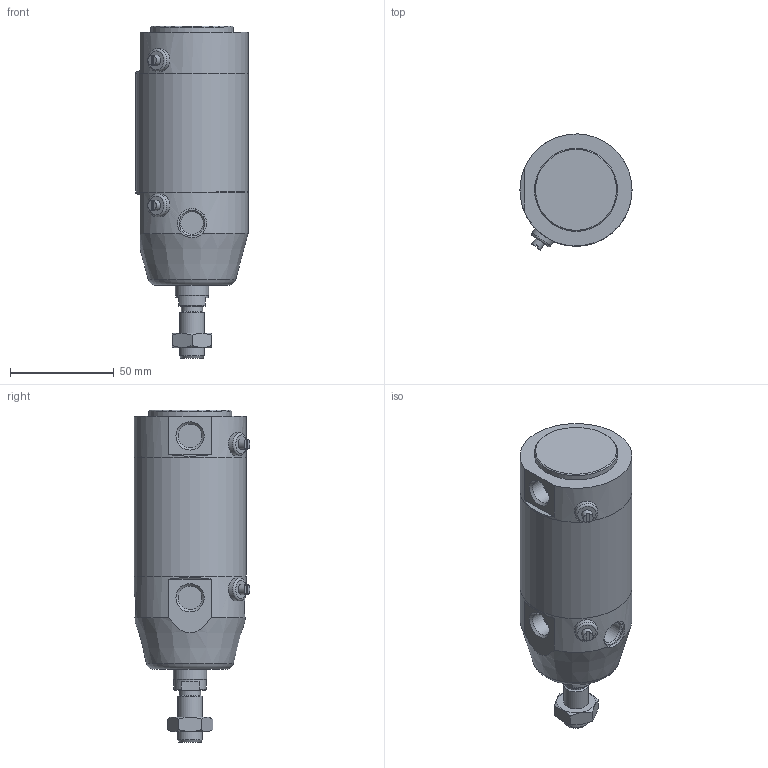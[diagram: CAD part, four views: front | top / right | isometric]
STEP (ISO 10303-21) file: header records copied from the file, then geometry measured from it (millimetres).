
FILE_DESCRIPTION(/* description */ (''),/* implementation_level */ '2;1');
FILE_NAME(/* name */ 'I:\Area Tecnica\Documenti\A-Manieri\_Inventor\12X\12X#E_###_####_#_#\12XBE_050_0015_#_#.stp',/* time_stamp */ '2015-05-08T13:57:41+02:00',/* author */ ('maniean1'),/* organization */ ('Pneumax S.p.A.'),/* preprocessor_version */ 'ST-DEVELOPER v15.2',/* originating_system */ 'Autodesk Inventor 2014',/* authorisation */ '');
FILE_SCHEMA (('AUTOMOTIVE_DESIGN { 1 0 10303 214 3 1 1 }'));
Length unit declared in the file: millimetre
Products named in the file (6): C1250_619-0015; 12X50_623; S12X50_0015; 12X_50_11; 12X50_612; 12XBE_050_0015_#_#
Bounding box: 54 x 55.88 x 160 mm (x, y, z)
Volume: 247326.9 mm3; surface area: 57555.5 mm2
Topology: 5 solids, 5 shells, 83 faces, 174 edges, 112 vertices
Faces by surface type: plane 45, cylinder 22, cone 13, torus 3
Full cylindrical faces by diameter (mm): 5 x2, 10.2 x1, 10.9 x2, 11 x2, 11.4 x2, 12 x2, 14 x1, 14.1 x2, 15.6 x1, 16 x1, 40 x1, 50 x2, 54 x3
Entity records: 2203 total; most frequent: CARTESIAN_POINT 508, DIRECTION 359, ORIENTED_EDGE 254, AXIS2_PLACEMENT_3D 161, EDGE_LOOP 136, EDGE_CURVE 127, VERTEX_POINT 101, ADVANCED_FACE 83
